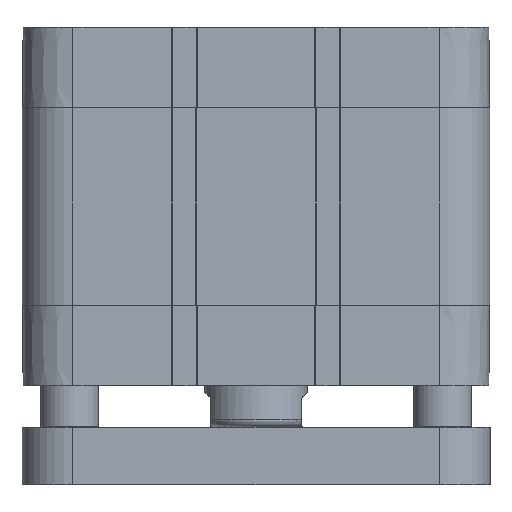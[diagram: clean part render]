
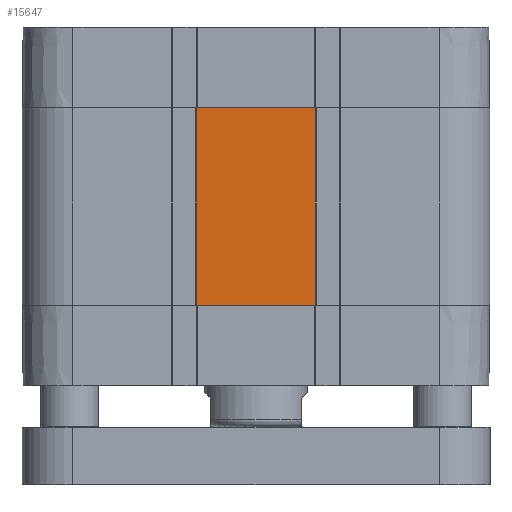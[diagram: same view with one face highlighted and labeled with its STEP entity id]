
A CAD part, left-side view. The second image highlights one B-rep face of the part: STEP entity #15647.
In plain terms, the highlighted planar face has unit normal (-1, 0, 0).
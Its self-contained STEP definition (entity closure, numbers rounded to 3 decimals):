
#643=LINE('',#28480,#2017);
#644=LINE('',#28483,#2018);
#645=LINE('',#28485,#2019);
#646=LINE('',#28487,#2020);
#2017=VECTOR('',#24116,1000.);
#2018=VECTOR('',#24117,1000.);
#2019=VECTOR('',#24118,1000.);
#2020=VECTOR('',#24119,1000.);
#3950=ORIENTED_EDGE('',*,*,#8485,.F.);
#3951=ORIENTED_EDGE('',*,*,#8486,.T.);
#3952=ORIENTED_EDGE('',*,*,#8487,.F.);
#3953=ORIENTED_EDGE('',*,*,#8488,.T.);
#8485=EDGE_CURVE('',#10722,#10723,#643,.T.);
#8486=EDGE_CURVE('',#10722,#10724,#644,.T.);
#8487=EDGE_CURVE('',#10725,#10724,#645,.T.);
#8488=EDGE_CURVE('',#10725,#10723,#646,.T.);
#10722=VERTEX_POINT('',#28481);
#10723=VERTEX_POINT('',#28482);
#10724=VERTEX_POINT('',#28484);
#10725=VERTEX_POINT('',#28486);
#12851=EDGE_LOOP('',(#3950,#3951,#3952,#3953));
#14030=FACE_BOUND('',#12851,.T.);
#15162=PLANE('',#22288);
#15647=ADVANCED_FACE('',(#14030),#15162,.T.);
#22288=AXIS2_PLACEMENT_3D('',#28479,#24114,#24115);
#24114=DIRECTION('',(-1.,0.,0.));
#24115=DIRECTION('',(0.,0.,1.));
#24116=DIRECTION('',(0.,0.,1.));
#24117=DIRECTION('',(0.,-1.,0.));
#24118=DIRECTION('',(0.,0.,-1.));
#24119=DIRECTION('',(0.,1.,0.));
#28479=CARTESIAN_POINT('',(-56.75,-56.75,0.));
#28480=CARTESIAN_POINT('',(-56.75,14.5,-16.5));
#28481=CARTESIAN_POINT('',(-56.75,14.5,-31.5));
#28482=CARTESIAN_POINT('',(-56.75,14.5,16.5));
#28483=CARTESIAN_POINT('',(-56.75,14.5,-31.5));
#28484=CARTESIAN_POINT('',(-56.75,-14.5,-31.5));
#28485=CARTESIAN_POINT('',(-56.75,-14.5,16.5));
#28486=CARTESIAN_POINT('',(-56.75,-14.5,16.5));
#28487=CARTESIAN_POINT('',(-56.75,-14.5,16.5));
